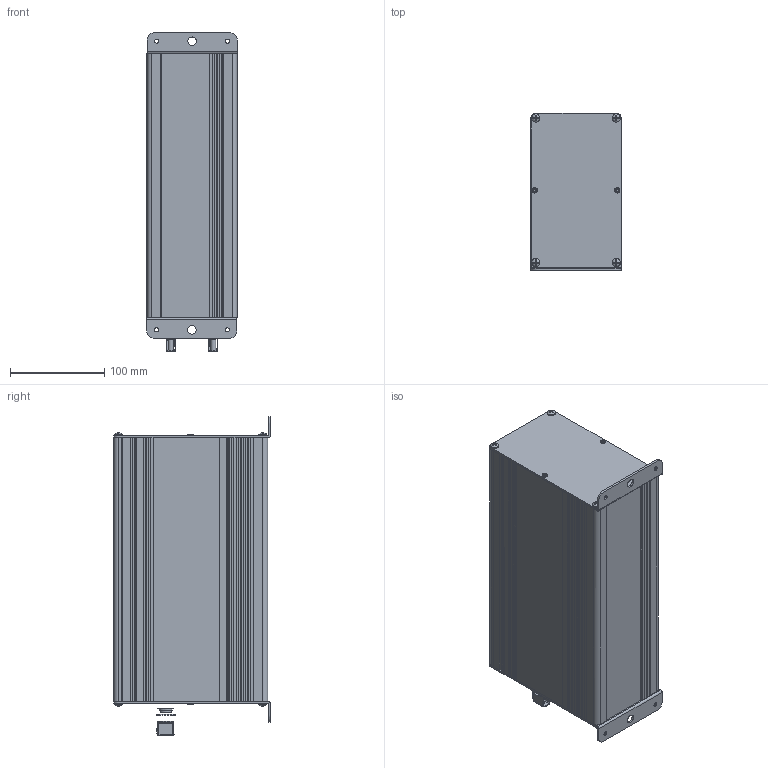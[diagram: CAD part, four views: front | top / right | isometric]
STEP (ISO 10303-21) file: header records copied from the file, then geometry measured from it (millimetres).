
FILE_DESCRIPTION(/* description */ ('','CAx-IF Rec.Pracs.---Representation and Presentation of Product Manufacturing Information (PMI)---4.0---2014-10-13'),/* implementation_level */ '2;1');
FILE_NAME(/* name */ 'H:\04_배터리_전기종\저부하용 배터리 케이스_3D\LB-25V55AH\LB-25V55AH.stp',/* time_stamp */ '2022-12-06T12:23:48+09:00',/* author */ ('jjang'),/* organization */ (''),/* preprocessor_version */ 'ST-DEVELOPER v18.1',/* originating_system */ 'Autodesk Inventor 2021',/* authorisation */ '');
FILE_SCHEMA (('AP242_MANAGED_MODEL_BASED_3D_ENGINEERING_MIM_LF { 1 0 10303 442 1 1 4 }'));
Length unit declared in the file: inch
Products named in the file (1): LB-25V55AH_Shrinkwrap_1
Bounding box: 95.73 x 166.4 x 337.7 mm (x, y, z)
Volume: 472267.1 mm3; surface area: 396774.6 mm2
Topology: 1 solids, 1 shells, 754 faces, 2206 edges, 1442 vertices
Faces by surface type: plane 440, cylinder 250, bspline 24, cone 18, torus 14, sphere 8
Full cylindrical faces by diameter (mm): 3.2 x4, 3.4 x4, 3.8 x8, 4.4 x4, 4.5 x8, 5.4 x2, 5.7 x4, 8.8 x8, 9 x2, 12 x2, 13.861 x2
Entity records: 27272 total; most frequent: CARTESIAN_POINT 6476, ORIENTED_EDGE 4412, DIRECTION 4248, EDGE_CURVE 2206, AXIS2_PLACEMENT_3D 1514, VERTEX_POINT 1442, LINE 1220, VECTOR 1220
